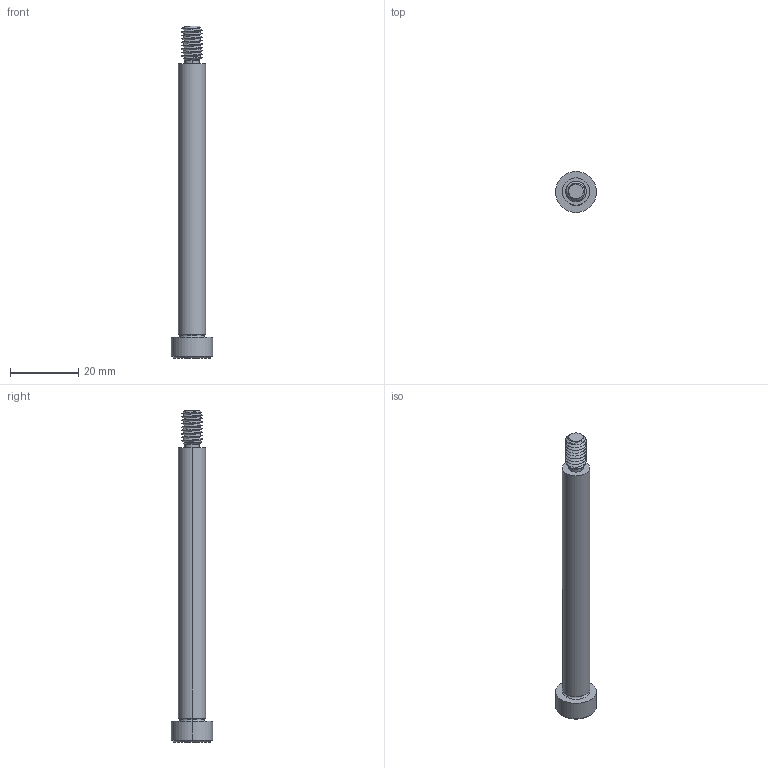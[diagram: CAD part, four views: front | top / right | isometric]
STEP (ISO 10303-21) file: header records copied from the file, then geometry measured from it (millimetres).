
FILE_DESCRIPTION (( 'STEP AP203' ), '1' );
FILE_NAME ('P0130.080-080-B2.step', '2021-11-09T21:45:25', ( '' ), ( '' ), 'SwSTEP 2.0', 'SolidWorks 2019', '' );
FILE_SCHEMA (( 'CONFIG_CONTROL_DESIGN' ));
Length unit declared in the file: millimetre
Products named in the file (1): P0130.080-080-B2
Bounding box: 12 x 12 x 97 mm (x, y, z)
Volume: 4855.5 mm3; surface area: 2843.5 mm2
Topology: 1 solids, 1 shells, 60 faces, 142 edges, 85 vertices
Faces by surface type: cylinder 24, plane 16, cone 14, torus 4, bspline 2
Entity records: 4245 total; most frequent: CARTESIAN_POINT 2899, ORIENTED_EDGE 280, DIRECTION 247, EDGE_CURVE 140, AXIS2_PLACEMENT_3D 99, VERTEX_POINT 85, EDGE_LOOP 63, FACE_OUTER_BOUND 60
